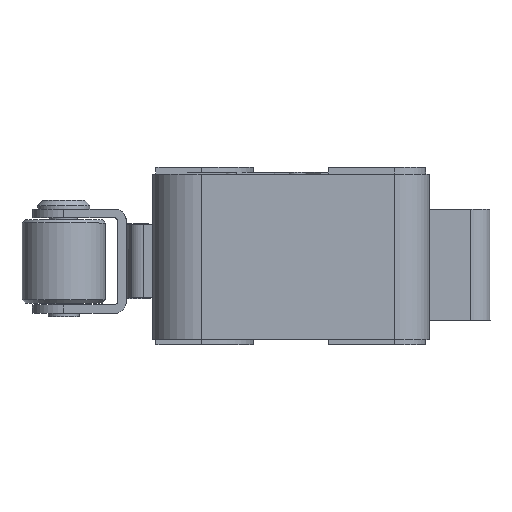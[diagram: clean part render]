
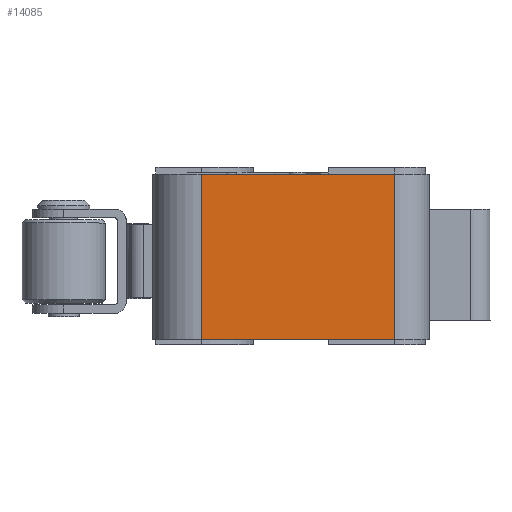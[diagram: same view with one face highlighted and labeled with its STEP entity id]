
A CAD part, left-side view. The second image highlights one B-rep face of the part: STEP entity #14085.
In plain terms, the highlighted planar face has unit normal (-1, 0, 0).
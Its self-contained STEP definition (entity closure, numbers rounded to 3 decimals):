
#2247=DIRECTION('',(0.,-1.,0.));
#2248=VECTOR('',#2247,11.1);
#2249=CARTESIAN_POINT('',(-27.322,8.192,
-4.7));
#2250=LINE('',#2249,#2248);
#2385=DIRECTION('',(0.,0.,-1.));
#2386=VECTOR('',#2385,9.5);
#2387=CARTESIAN_POINT('',(-27.322,8.192,4.8));
#2388=LINE('',#2387,#2386);
#2389=DIRECTION('',(0.,-1.,0.));
#2390=VECTOR('',#2389,11.1);
#2391=CARTESIAN_POINT('',(-27.322,8.192,4.8));
#2392=LINE('',#2391,#2390);
#2393=DIRECTION('',(0.,0.,1.));
#2394=VECTOR('',#2393,9.5);
#2395=CARTESIAN_POINT('',(-27.322,-2.908,
-4.7));
#2396=LINE('',#2395,#2394);
#10258=CARTESIAN_POINT('',(-27.322,-2.908,
4.8));
#10259=VERTEX_POINT('',#10258);
#10260=CARTESIAN_POINT('',(-27.322,8.192,
4.8));
#10261=VERTEX_POINT('',#10260);
#11192=CARTESIAN_POINT('',(-27.322,-2.908,
-4.7));
#11193=VERTEX_POINT('',#11192);
#11194=CARTESIAN_POINT('',(-27.322,8.192,
-4.7));
#11195=VERTEX_POINT('',#11194);
#14073=CARTESIAN_POINT('',(-27.322,10.992,
-4.7));
#14074=DIRECTION('',(-1.,0.,0.));
#14075=DIRECTION('',(0.,-1.,0.));
#14076=AXIS2_PLACEMENT_3D('',#14073,#14074,#14075);
#14077=PLANE('',#14076);
#14078=ORIENTED_EDGE('',*,*,#14067,.F.);
#14079=ORIENTED_EDGE('',*,*,#12949,.T.);
#14081=ORIENTED_EDGE('',*,*,#14080,.F.);
#14082=ORIENTED_EDGE('',*,*,#13932,.F.);
#14083=EDGE_LOOP('',(#14078,#14079,#14081,#14082));
#14084=FACE_OUTER_BOUND('',#14083,.F.);
#14085=ADVANCED_FACE('',(#14084),#14077,.T.);
#12949=EDGE_CURVE('',#10261,#10259,#2392,.T.);
#13932=EDGE_CURVE('',#11195,#11193,#2250,.T.);
#14067=EDGE_CURVE('',#10261,#11195,#2388,.T.);
#14080=EDGE_CURVE('',#11193,#10259,#2396,.T.);
